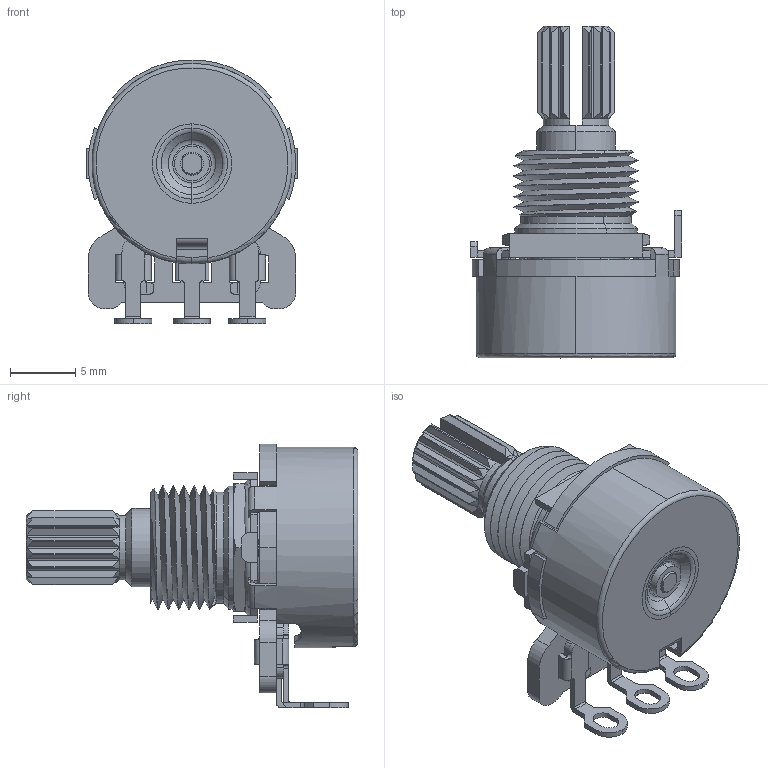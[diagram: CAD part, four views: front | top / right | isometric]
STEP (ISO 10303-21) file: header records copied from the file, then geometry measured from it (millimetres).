
FILE_DESCRIPTION (( 'STEP AP214' ), '1' );
FILE_NAME ('270T220N504A1A1.STEP', '2019-05-24T07:43:34', ( '' ), ( '' ), 'SwSTEP 2.0', 'SolidWorks 2019', '' );
FILE_SCHEMA (( 'AUTOMOTIVE_DESIGN' ));
Length unit declared in the file: millimetre
Products named in the file (10): 270-01-121-30-01G; 270-18-016-01-37(for 270-95-018); 270S-DL-11368-20; 270-40-060-02-42; 270-07-014-01-53; 270T220N504A1A1; 270-95-018-00-00(for Base 121); 270-13-122-06-12 (for 270-95-018); 270E-D-2298; 270 element
Assembly tree (9 placements, depth 3):
  270T220N504A1A1
    270-40-060-02-42
    270-95-018-00-00(for Base 121)
      270-01-121-30-01G
      270 element
      270-13-122-06-12 (for 270-95-018)
      270-18-016-01-37(for 270-95-018)
    270-07-014-01-53
    270E-D-2298
    270S-DL-11368-20
Bounding box: 16.16 x 25.4 x 20.19 mm (x, y, z)
Volume: 1348.2 mm3; surface area: 3712.3 mm2
Topology: 9 solids, 9 shells, 701 faces, 1970 edges, 1289 vertices
Faces by surface type: plane 393, cylinder 231, cone 47, torus 28, bspline 2
Entity records: 24249 total; most frequent: CARTESIAN_POINT 5641, ORIENTED_EDGE 3940, DIRECTION 3727, EDGE_CURVE 1970, AXIS2_PLACEMENT_3D 1300, VERTEX_POINT 1289, VECTOR 1127, LINE 1127
